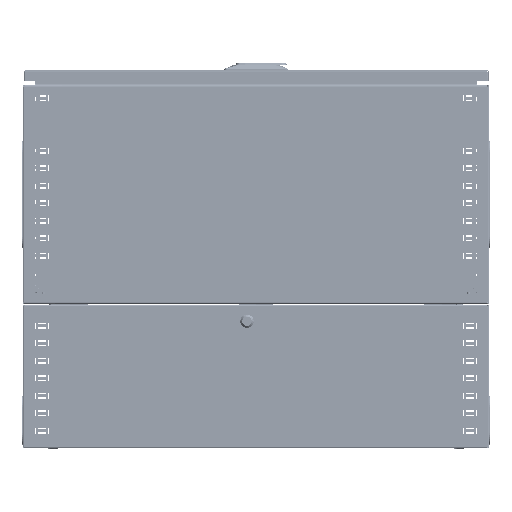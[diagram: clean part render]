
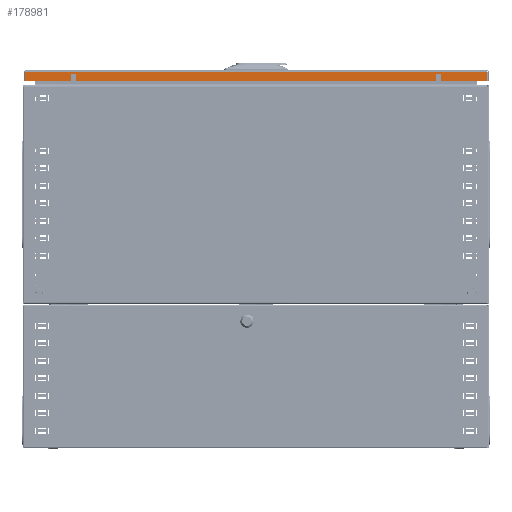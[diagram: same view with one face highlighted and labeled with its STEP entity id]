
A CAD part, left-side view. The second image highlights one B-rep face of the part: STEP entity #178981.
In plain terms, the highlighted planar face has unit normal (-1, 0, 0) as drawn and (1, 0, 0) by its records, which use the part's own axes.
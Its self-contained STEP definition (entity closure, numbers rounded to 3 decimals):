
#2014 = ORIENTED_EDGE ( 'NONE', *, *, #260534, .F. ) ;
#6395 = CARTESIAN_POINT ( 'NONE',  ( 298.5, -396.4, 2.1 ) ) ;
#25282 = CARTESIAN_POINT ( 'NONE',  ( 298.5, 396.4, 18.5 ) ) ;
#30286 = EDGE_CURVE ( 'NONE', #77793, #164607, #214760, .T. ) ;
#57048 = EDGE_CURVE ( 'NONE', #152148, #117703, #154522, .T. ) ;
#58991 = CARTESIAN_POINT ( 'NONE',  ( 298.5, 396.4, 2.1 ) ) ;
#64147 = CARTESIAN_POINT ( 'NONE',  ( 298.5, 396.4, 18.5 ) ) ;
#77793 = VERTEX_POINT ( 'NONE', #58991 ) ;
#87533 = CARTESIAN_POINT ( 'NONE',  ( 298.5, -396.4, 18.5 ) ) ;
#97590 = CARTESIAN_POINT ( 'NONE',  ( 298.5, -396.4, 1.5 ) ) ;
#99335 = ORIENTED_EDGE ( 'NONE', *, *, #57048, .T. ) ;
#106310 = CARTESIAN_POINT ( 'NONE',  ( 298.5, -396.4, 18.5 ) ) ;
#117703 = VERTEX_POINT ( 'NONE', #223103 ) ;
#118137 = LINE ( 'NONE', #106310, #231187 ) ;
#133735 = DIRECTION ( 'NONE',  ( 0., 0., 1. ) ) ;
#147525 = EDGE_LOOP ( 'NONE', ( #2014, #173646, #190323, #99335 ) ) ;
#151577 = VECTOR ( 'NONE', #195557, 1000. ) ;
#152148 = VERTEX_POINT ( 'NONE', #87533 ) ;
#154522 = LINE ( 'NONE', #97590, #211033 ) ;
#164607 = VERTEX_POINT ( 'NONE', #64147 ) ;
#168792 = AXIS2_PLACEMENT_3D ( 'NONE', #196920, #261133, #133735 ) ;
#173646 = ORIENTED_EDGE ( 'NONE', *, *, #30286, .T. ) ;
#178981 = ADVANCED_FACE ( 'NONE', ( #253636 ), #239644, .F. ) ;
#190323 = ORIENTED_EDGE ( 'NONE', *, *, #258944, .T. ) ;
#190711 = VECTOR ( 'NONE', #261299, 1000. ) ;
#195557 = DIRECTION ( 'NONE',  ( 0., 0., 1. ) ) ;
#196920 = CARTESIAN_POINT ( 'NONE',  ( 298.5, -396.4, 18.5 ) ) ;
#203539 = DIRECTION ( 'NONE',  ( 0., 0., -1. ) ) ;
#211033 = VECTOR ( 'NONE', #203539, 1000. ) ;
#214760 = LINE ( 'NONE', #25282, #151577 ) ;
#223103 = CARTESIAN_POINT ( 'NONE',  ( 298.5, -396.4, 2.1 ) ) ;
#231187 = VECTOR ( 'NONE', #255092, 1000. ) ;
#239644 = PLANE ( 'NONE',  #168792 ) ;
#253636 = FACE_OUTER_BOUND ( 'NONE', #147525, .T. ) ;
#253963 = LINE ( 'NONE', #6395, #190711 ) ;
#255092 = DIRECTION ( 'NONE',  ( 0., -1., 0. ) ) ;
#258944 = EDGE_CURVE ( 'NONE', #164607, #152148, #118137, .T. ) ;
#260534 = EDGE_CURVE ( 'NONE', #77793, #117703, #253963, .T. ) ;
#261133 = DIRECTION ( 'NONE',  ( -1., 0., 0. ) ) ;
#261299 = DIRECTION ( 'NONE',  ( 0., -1., 0. ) ) ;
